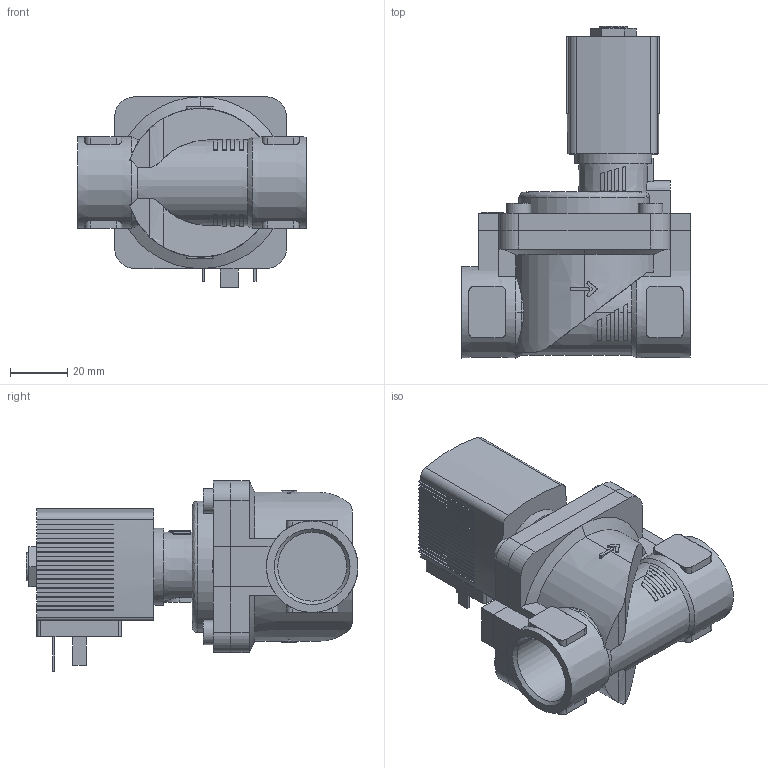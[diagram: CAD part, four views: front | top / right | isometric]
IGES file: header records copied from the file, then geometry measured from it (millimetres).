
Start section: Data from Parasolid IGES Translator 26.0.171, Copyright(c) 2006 Siemens PLM Software. All Rights Reserved.
Global section: file name: 6281-238443-2_2-Way_Solenoid_Valve__Servo-assisted__General_Purpose.igs; native system: By Siemens PLM Incorporated; preprocessor: XPlus GENERIC/IGES 26.0.171; author: Noname; organization: Noname; date: 20240520.122413; units: millimetre
Bounding box: 80 x 116 x 66.5 mm (x, y, z)
Surface area: 43129.7 mm2 (no closed solid volume)
Topology: 0 solids, 0 shells, 555 faces, 3082 edges, 3076 vertices
Faces by surface type: extrusion 432, revolution 123
